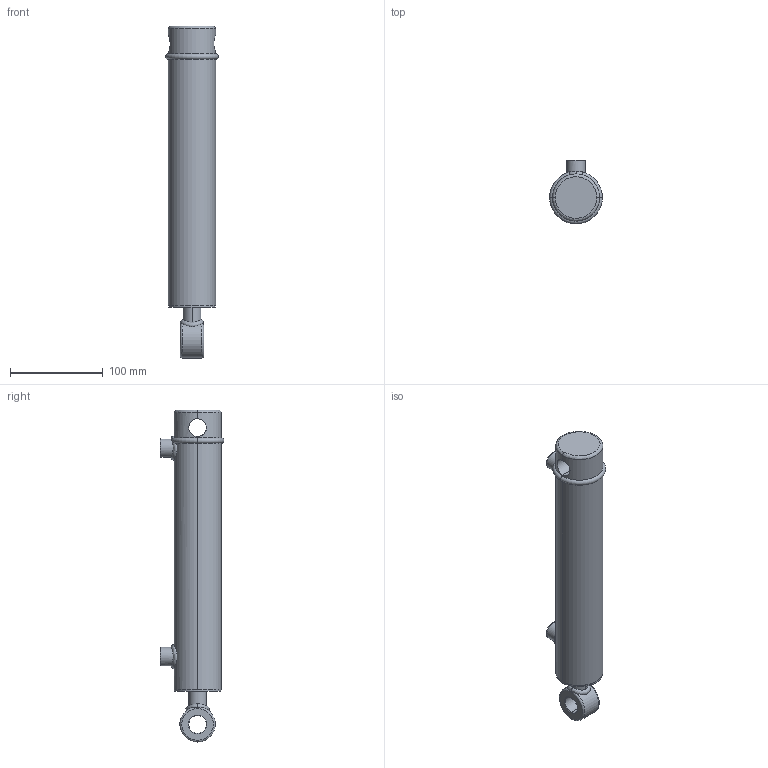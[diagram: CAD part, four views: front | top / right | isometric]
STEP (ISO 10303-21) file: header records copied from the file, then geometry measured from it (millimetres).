
FILE_DESCRIPTION (( 'STEP AP203' ), '1' );
FILE_NAME ('SB-C150075X203 (8).STEP', '2014-12-18T20:02:30', ( '' ), ( '' ), 'SwSTEP 2.0', 'SolidWorks 2015', '' );
FILE_SCHEMA (( 'CONFIG_CONTROL_DESIGN' ));
Length unit declared in the file: millimetre
Products named in the file (3): SPARE_8; BODY_8; SB-C150075X203 (8)
Assembly tree (2 placements, depth 2):
  SB-C150075X203 (8)
    BODY_8
    SPARE_8
Bounding box: 56.7 x 68.75 x 357 mm (x, y, z)
Volume: 668021.3 mm3; surface area: 87262.1 mm2
Topology: 2 solids, 2 shells, 90 faces, 211 edges, 127 vertices
Faces by surface type: cylinder 32, torus 20, bspline 17, plane 13, cone 8
Entity records: 8172 total; most frequent: CARTESIAN_POINT 5968, ORIENTED_EDGE 414, DIRECTION 380, EDGE_CURVE 207, AXIS2_PLACEMENT_3D 169, VERTEX_POINT 127, EDGE_LOOP 104, CIRCLE 91
